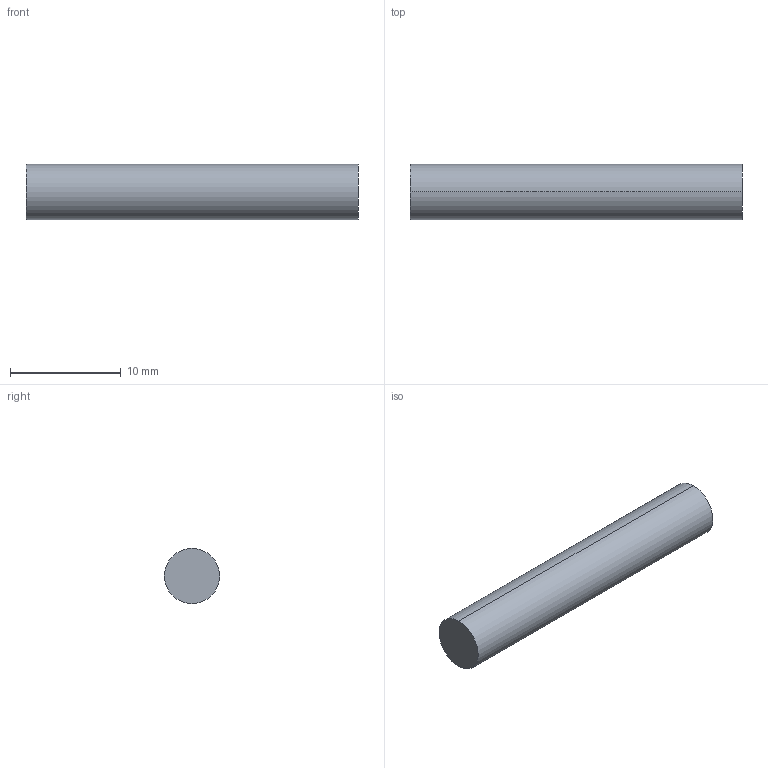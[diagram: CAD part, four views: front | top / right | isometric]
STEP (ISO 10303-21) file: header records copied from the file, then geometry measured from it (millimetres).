
FILE_DESCRIPTION (( 'STEP AP214' ), '1' );
FILE_NAME ('IDD-008-1.1.0-004_Kette_Stift.STEP', '2021-08-18T14:49:03', ( '' ), ( '' ), 'SwSTEP 2.0', 'SolidWorks 2018', '' );
FILE_SCHEMA (( 'AUTOMOTIVE_DESIGN' ));
Length unit declared in the file: millimetre
Products named in the file (1): IDD-008-1.1.0-004_Kette_Stift
Bounding box: 30 x 5 x 5 mm (x, y, z)
Volume: 589 mm3; surface area: 510.5 mm2
Topology: 1 solids, 1 shells, 4 faces, 6 edges, 4 vertices
Faces by surface type: cylinder 2, plane 2
Entity records: 128 total; most frequent: DIRECTION 20, CARTESIAN_POINT 15, ORIENTED_EDGE 12, AXIS2_PLACEMENT_3D 9, EDGE_CURVE 6, ADVANCED_FACE 4, CIRCLE 4, VERTEX_POINT 4
